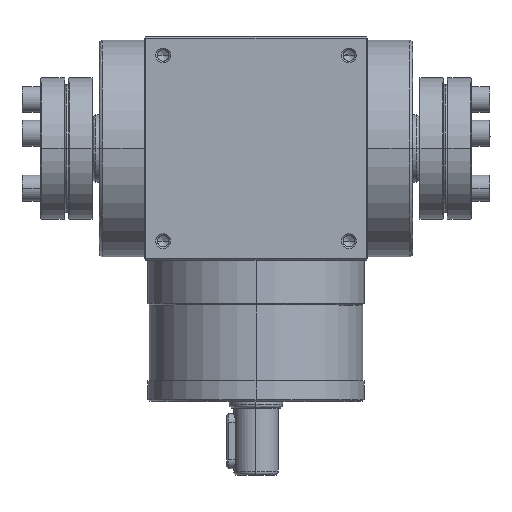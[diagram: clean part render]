
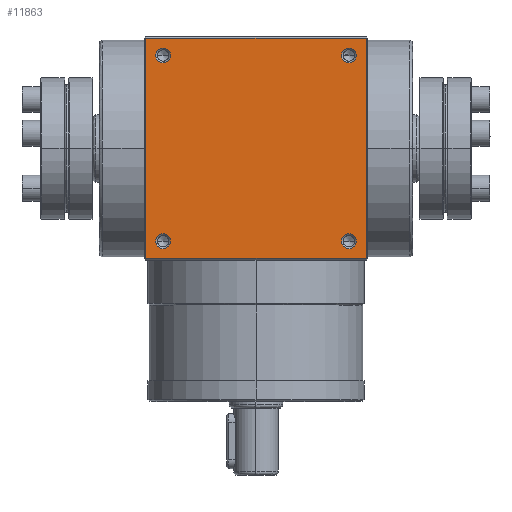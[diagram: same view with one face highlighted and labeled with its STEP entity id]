
A CAD part, top view. The second image highlights one B-rep face of the part: STEP entity #11863.
In plain terms, the highlighted planar face has unit normal (0, 0, 1).
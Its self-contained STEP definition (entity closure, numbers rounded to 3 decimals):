
#15 = DIRECTION ( 'NONE',  ( 1., 0., 0. ) ) ;
#288 = CARTESIAN_POINT ( 'NONE',  ( 29.15, -27., 32.5 ) ) ;
#352 = EDGE_CURVE ( 'NONE', #4193, #2028, #11969, .T. ) ;
#614 = CARTESIAN_POINT ( 'NONE',  ( -27., -27., 32.5 ) ) ;
#706 = EDGE_LOOP ( 'NONE', ( #4841, #14185 ) ) ;
#755 = CIRCLE ( 'NONE', #5184, 2.15 ) ;
#870 = EDGE_CURVE ( 'NONE', #6860, #13694, #6235, .T. ) ;
#930 = DIRECTION ( 'NONE',  ( 0., 0., 1. ) ) ;
#1116 = EDGE_LOOP ( 'NONE', ( #1643, #13643 ) ) ;
#1501 = VERTEX_POINT ( 'NONE', #11397 ) ;
#1517 = AXIS2_PLACEMENT_3D ( 'NONE', #8292, #18751, #9803 ) ;
#1643 = ORIENTED_EDGE ( 'NONE', *, *, #8906, .F. ) ;
#1716 = LINE ( 'NONE', #13300, #11598 ) ;
#1780 = VERTEX_POINT ( 'NONE', #12168 ) ;
#1821 = CARTESIAN_POINT ( 'NONE',  ( 24.85, -27., 32.5 ) ) ;
#1878 = EDGE_CURVE ( 'NONE', #4193, #6212, #3973, .T. ) ;
#1909 = AXIS2_PLACEMENT_3D ( 'NONE', #17904, #8957, #15 ) ;
#1934 = EDGE_LOOP ( 'NONE', ( #17387, #10671 ) ) ;
#2028 = VERTEX_POINT ( 'NONE', #13152 ) ;
#2109 = DIRECTION ( 'NONE',  ( 1., 0., 0. ) ) ;
#2117 = EDGE_CURVE ( 'NONE', #2028, #1501, #8539, .T. ) ;
#2345 = EDGE_CURVE ( 'NONE', #1780, #10301, #7812, .T. ) ;
#2383 = CARTESIAN_POINT ( 'NONE',  ( 32., -32., 32.5 ) ) ;
#2508 = EDGE_CURVE ( 'NONE', #1501, #6212, #1716, .T. ) ;
#2522 = DIRECTION ( 'NONE',  ( 0., 0., 1. ) ) ;
#2851 = FACE_BOUND ( 'NONE', #1934, .T. ) ;
#3139 = CARTESIAN_POINT ( 'NONE',  ( -32., -32., 32.5 ) ) ;
#3601 = EDGE_CURVE ( 'NONE', #4946, #3714, #12869, .T. ) ;
#3714 = VERTEX_POINT ( 'NONE', #8310 ) ;
#3973 = LINE ( 'NONE', #17273, #14316 ) ;
#4065 = EDGE_CURVE ( 'NONE', #3714, #4946, #755, .T. ) ;
#4193 = VERTEX_POINT ( 'NONE', #3139 ) ;
#4230 = EDGE_CURVE ( 'NONE', #13694, #6860, #13599, .T. ) ;
#4241 = DIRECTION ( 'NONE',  ( 0., 0., 1. ) ) ;
#4248 = FACE_BOUND ( 'NONE', #706, .T. ) ;
#4391 = DIRECTION ( 'NONE',  ( 0., -1., 0. ) ) ;
#4474 = CARTESIAN_POINT ( 'NONE',  ( 27., 27., 32.5 ) ) ;
#4841 = ORIENTED_EDGE ( 'NONE', *, *, #870, .F. ) ;
#4946 = VERTEX_POINT ( 'NONE', #9793 ) ;
#5184 = AXIS2_PLACEMENT_3D ( 'NONE', #13159, #4241, #14665 ) ;
#5397 = DIRECTION ( 'NONE',  ( 0., 0., -1. ) ) ;
#5541 = DIRECTION ( 'NONE',  ( 0., 1., 0. ) ) ;
#5941 = CARTESIAN_POINT ( 'NONE',  ( 0., 32., 32.5 ) ) ;
#5989 = DIRECTION ( 'NONE',  ( 1., 0., 0. ) ) ;
#6027 = ORIENTED_EDGE ( 'NONE', *, *, #2508, .F. ) ;
#6212 = VERTEX_POINT ( 'NONE', #12962 ) ;
#6213 = ORIENTED_EDGE ( 'NONE', *, *, #2117, .F. ) ;
#6235 = CIRCLE ( 'NONE', #19126, 2.15 ) ;
#6257 = CARTESIAN_POINT ( 'NONE',  ( -27., 27., 32.5 ) ) ;
#6442 = VERTEX_POINT ( 'NONE', #1821 ) ;
#6551 = CIRCLE ( 'NONE', #9766, 2.15 ) ;
#6802 = ORIENTED_EDGE ( 'NONE', *, *, #1878, .T. ) ;
#6860 = VERTEX_POINT ( 'NONE', #11835 ) ;
#6989 = ORIENTED_EDGE ( 'NONE', *, *, #352, .F. ) ;
#7276 = CIRCLE ( 'NONE', #1517, 2.15 ) ;
#7336 = DIRECTION ( 'NONE',  ( 1., 0., 0. ) ) ;
#7527 = FACE_BOUND ( 'NONE', #1116, .T. ) ;
#7741 = DIRECTION ( 'NONE',  ( 1., 0., 0. ) ) ;
#7812 = CIRCLE ( 'NONE', #9003, 2.15 ) ;
#8292 = CARTESIAN_POINT ( 'NONE',  ( 27., -27., 32.5 ) ) ;
#8310 = CARTESIAN_POINT ( 'NONE',  ( 29.15, 27., 32.5 ) ) ;
#8335 = DIRECTION ( 'NONE',  ( 1., 0., 0. ) ) ;
#8539 = LINE ( 'NONE', #5941, #15830 ) ;
#8568 = VERTEX_POINT ( 'NONE', #288 ) ;
#8906 = EDGE_CURVE ( 'NONE', #10301, #1780, #18381, .T. ) ;
#8957 = DIRECTION ( 'NONE',  ( 0., 0., 1. ) ) ;
#9003 = AXIS2_PLACEMENT_3D ( 'NONE', #614, #11039, #2109 ) ;
#9766 = AXIS2_PLACEMENT_3D ( 'NONE', #11431, #2522, #12932 ) ;
#9793 = CARTESIAN_POINT ( 'NONE',  ( 24.85, 27., 32.5 ) ) ;
#9803 = DIRECTION ( 'NONE',  ( 1., 0., 0. ) ) ;
#9865 = CARTESIAN_POINT ( 'NONE',  ( -29.15, 27., 32.5 ) ) ;
#9869 = CARTESIAN_POINT ( 'NONE',  ( -27., 27., 32.5 ) ) ;
#10301 = VERTEX_POINT ( 'NONE', #17261 ) ;
#10671 = ORIENTED_EDGE ( 'NONE', *, *, #16992, .F. ) ;
#10923 = FACE_OUTER_BOUND ( 'NONE', #16431, .T. ) ;
#11039 = DIRECTION ( 'NONE',  ( 0., 0., 1. ) ) ;
#11347 = DIRECTION ( 'NONE',  ( 1., 0., 0. ) ) ;
#11397 = CARTESIAN_POINT ( 'NONE',  ( 32., 32., 32.5 ) ) ;
#11431 = CARTESIAN_POINT ( 'NONE',  ( 27., -27., 32.5 ) ) ;
#11512 = VECTOR ( 'NONE', #5541, 1000. ) ;
#11598 = VECTOR ( 'NONE', #4391, 1000. ) ;
#11835 = CARTESIAN_POINT ( 'NONE',  ( -24.85, 27., 32.5 ) ) ;
#11863 = ADVANCED_FACE ( 'NONE', ( #4248, #16619, #7527, #2851, #10923 ), #14313, .F. ) ;
#11969 = LINE ( 'NONE', #18972, #11512 ) ;
#12058 = ORIENTED_EDGE ( 'NONE', *, *, #4065, .F. ) ;
#12168 = CARTESIAN_POINT ( 'NONE',  ( -29.15, -27., 32.5 ) ) ;
#12869 = CIRCLE ( 'NONE', #16531, 2.15 ) ;
#12932 = DIRECTION ( 'NONE',  ( 1., 0., 0. ) ) ;
#12962 = CARTESIAN_POINT ( 'NONE',  ( 32., -32., 32.5 ) ) ;
#13152 = CARTESIAN_POINT ( 'NONE',  ( -32., 32., 32.5 ) ) ;
#13159 = CARTESIAN_POINT ( 'NONE',  ( 27., 27., 32.5 ) ) ;
#13174 = EDGE_LOOP ( 'NONE', ( #12058, #17092 ) ) ;
#13300 = CARTESIAN_POINT ( 'NONE',  ( 32., 0., 32.5 ) ) ;
#13599 = CIRCLE ( 'NONE', #16677, 2.15 ) ;
#13643 = ORIENTED_EDGE ( 'NONE', *, *, #2345, .F. ) ;
#13655 = EDGE_CURVE ( 'NONE', #8568, #6442, #7276, .T. ) ;
#13694 = VERTEX_POINT ( 'NONE', #9865 ) ;
#14185 = ORIENTED_EDGE ( 'NONE', *, *, #4230, .F. ) ;
#14195 = AXIS2_PLACEMENT_3D ( 'NONE', #2383, #5397, #15821 ) ;
#14313 = PLANE ( 'NONE',  #14195 ) ;
#14316 = VECTOR ( 'NONE', #8335, 1000. ) ;
#14665 = DIRECTION ( 'NONE',  ( 1., 0., 0. ) ) ;
#14911 = DIRECTION ( 'NONE',  ( 0., 0., 1. ) ) ;
#15821 = DIRECTION ( 'NONE',  ( -1., 0., 0. ) ) ;
#15830 = VECTOR ( 'NONE', #7336, 1000. ) ;
#16431 = EDGE_LOOP ( 'NONE', ( #6802, #6027, #6213, #6989 ) ) ;
#16531 = AXIS2_PLACEMENT_3D ( 'NONE', #4474, #14911, #5989 ) ;
#16619 = FACE_BOUND ( 'NONE', #13174, .T. ) ;
#16677 = AXIS2_PLACEMENT_3D ( 'NONE', #6257, #16700, #7741 ) ;
#16700 = DIRECTION ( 'NONE',  ( 0., 0., 1. ) ) ;
#16992 = EDGE_CURVE ( 'NONE', #6442, #8568, #6551, .T. ) ;
#17092 = ORIENTED_EDGE ( 'NONE', *, *, #3601, .F. ) ;
#17261 = CARTESIAN_POINT ( 'NONE',  ( -24.85, -27., 32.5 ) ) ;
#17273 = CARTESIAN_POINT ( 'NONE',  ( 0., -32., 32.5 ) ) ;
#17387 = ORIENTED_EDGE ( 'NONE', *, *, #13655, .F. ) ;
#17904 = CARTESIAN_POINT ( 'NONE',  ( -27., -27., 32.5 ) ) ;
#18381 = CIRCLE ( 'NONE', #1909, 2.15 ) ;
#18751 = DIRECTION ( 'NONE',  ( 0., 0., 1. ) ) ;
#18972 = CARTESIAN_POINT ( 'NONE',  ( -32., 0., 32.5 ) ) ;
#19126 = AXIS2_PLACEMENT_3D ( 'NONE', #9869, #930, #11347 ) ;
